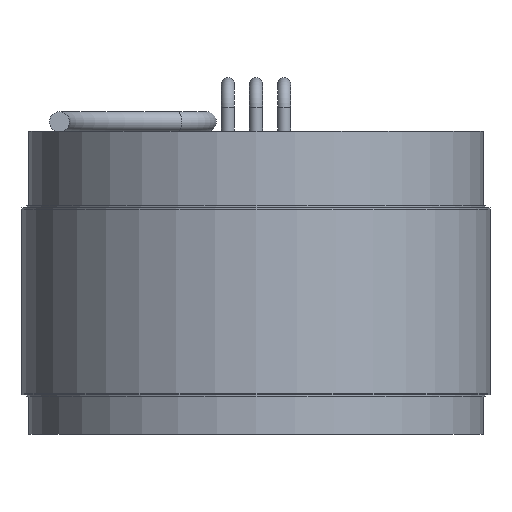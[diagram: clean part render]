
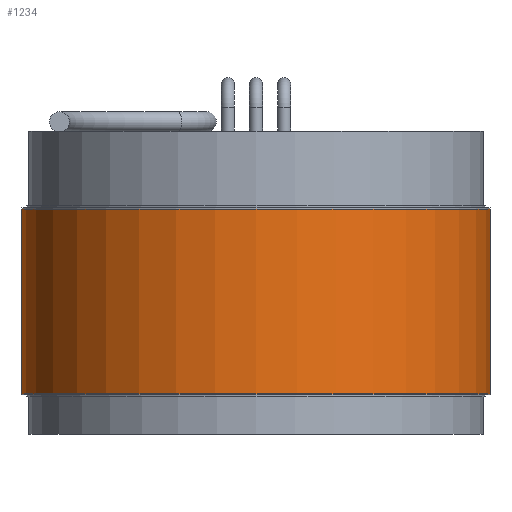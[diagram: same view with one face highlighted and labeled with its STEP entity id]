
A CAD part, front view. The second image highlights one B-rep face of the part: STEP entity #1234.
In plain terms, the highlighted cylindrical face has radius 31.75 mm (diameter 63.5 mm), a full revolution.
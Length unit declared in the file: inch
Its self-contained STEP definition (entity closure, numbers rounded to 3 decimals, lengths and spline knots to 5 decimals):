
#32 = ORIENTED_EDGE ( 'NONE', *, *, #909, .T. ) ;
#70 = EDGE_LOOP ( 'NONE', ( #538 ) ) ;
#76 = DIRECTION ( 'NONE',  ( 1., 0., 0. ) ) ;
#86 = DIRECTION ( 'NONE',  ( 1., 0., 0. ) ) ;
#164 = CYLINDRICAL_SURFACE ( 'NONE', #447, 1.25 ) ;
#200 = VERTEX_POINT ( 'NONE', #262 ) ;
#241 = DIRECTION ( 'NONE',  ( 1., 0., 0. ) ) ;
#262 = CARTESIAN_POINT ( 'NONE',  ( 1.25, 0., 0.49213 ) ) ;
#274 = FACE_OUTER_BOUND ( 'NONE', #70, .T. ) ;
#275 = CARTESIAN_POINT ( 'NONE',  ( 0., 0., -0.51 ) ) ;
#429 = VERTEX_POINT ( 'NONE', #802 ) ;
#431 = DIRECTION ( 'NONE',  ( 0., 0., 1. ) ) ;
#445 = EDGE_CURVE ( 'NONE', #200, #200, #942, .T. ) ;
#447 = AXIS2_PLACEMENT_3D ( 'NONE', #275, #431, #86 ) ;
#538 = ORIENTED_EDGE ( 'NONE', *, *, #445, .F. ) ;
#590 = AXIS2_PLACEMENT_3D ( 'NONE', #1205, #1323, #241 ) ;
#720 = AXIS2_PLACEMENT_3D ( 'NONE', #1057, #1408, #76 ) ;
#747 = CIRCLE ( 'NONE', #720, 1.25 ) ;
#802 = CARTESIAN_POINT ( 'NONE',  ( 1.25, 0., -0.49213 ) ) ;
#855 = EDGE_LOOP ( 'NONE', ( #32 ) ) ;
#909 = EDGE_CURVE ( 'NONE', #429, #429, #747, .T. ) ;
#942 = CIRCLE ( 'NONE', #590, 1.25 ) ;
#1057 = CARTESIAN_POINT ( 'NONE',  ( 0., 0., -0.49213 ) ) ;
#1142 = FACE_OUTER_BOUND ( 'NONE', #855, .T. ) ;
#1205 = CARTESIAN_POINT ( 'NONE',  ( 0., 0., 0.49213 ) ) ;
#1234 = ADVANCED_FACE ( 'NONE', ( #274, #1142 ), #164, .T. ) ;
#1323 = DIRECTION ( 'NONE',  ( 0., 0., 1. ) ) ;
#1408 = DIRECTION ( 'NONE',  ( 0., 0., 1. ) ) ;
